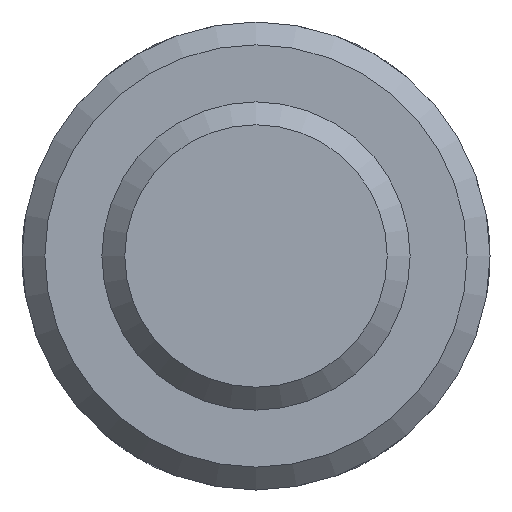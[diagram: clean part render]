
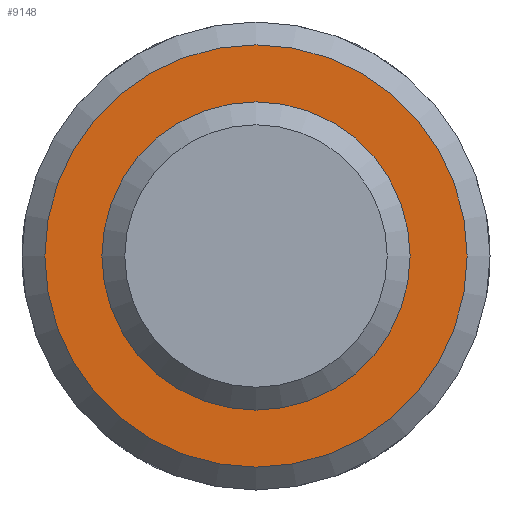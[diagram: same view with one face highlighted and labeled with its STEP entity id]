
A CAD part, front view. The second image highlights one B-rep face of the part: STEP entity #9148.
In plain terms, the highlighted planar face has unit normal (0, -1, 0) as drawn and (0, 1, 0) by its records, which use the part's own axes.
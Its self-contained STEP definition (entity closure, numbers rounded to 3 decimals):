
#73=CIRCLE('',#9487,18.5);
#1386=FACE_OUTER_BOUND('',#1946,.T.);
#1946=EDGE_LOOP('',(#8399));
#4434=VERTEX_POINT('',#16784);
#5759=EDGE_CURVE('',#4434,#4434,#73,.T.);
#8399=ORIENTED_EDGE('',*,*,#5759,.F.);
#8659=PLANE('',#9490);
#9148=ADVANCED_FACE('',(#1386),#8659,.T.);
#9487=AXIS2_PLACEMENT_3D('',#16785,#10822,#10823);
#9490=AXIS2_PLACEMENT_3D('',#17023,#10828,#10829);
#10822=DIRECTION('center_axis',(0.,-1.,0.));
#10823=DIRECTION('ref_axis',(1.,0.,0.));
#10828=DIRECTION('center_axis',(0.,1.,0.));
#10829=DIRECTION('ref_axis',(0.,0.,1.));
#16784=CARTESIAN_POINT('',(-18.5,15.,0.));
#16785=CARTESIAN_POINT('Origin',(0.,15.,0.));
#17023=CARTESIAN_POINT('Origin',(0.,15.,0.));
